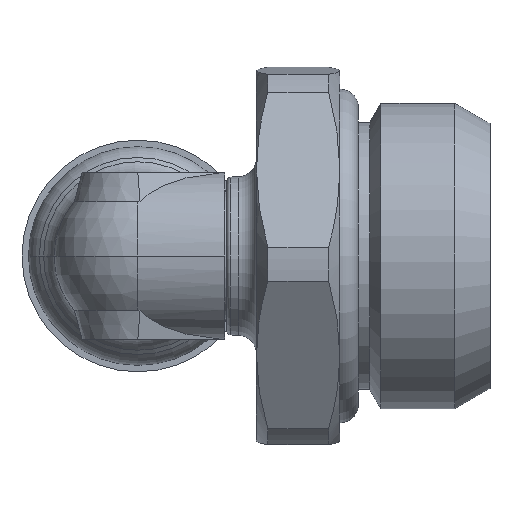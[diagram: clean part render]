
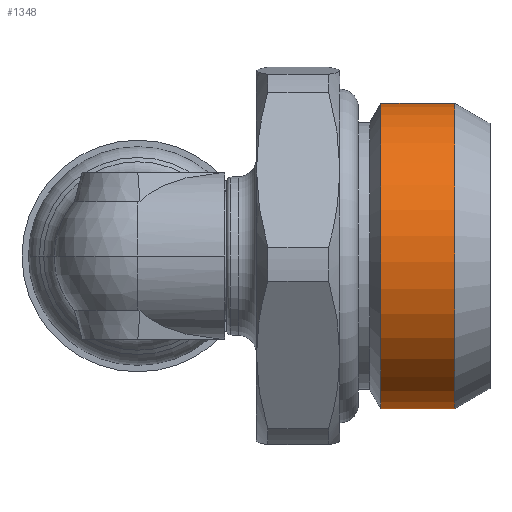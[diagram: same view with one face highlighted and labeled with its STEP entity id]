
A CAD part, left-side view. The second image highlights one B-rep face of the part: STEP entity #1348.
In plain terms, the highlighted cylindrical face has radius 8.25 mm (diameter 16.5 mm), a partial arc.
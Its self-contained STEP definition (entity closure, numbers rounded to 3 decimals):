
#994 = CARTESIAN_POINT ( 'NONE',  ( 0.334, -17.095, -8.243 ) ) ;
#1030 = CARTESIAN_POINT ( 'NONE',  ( 0.334, -13.106, -8.243 ) ) ;
#1061 = CARTESIAN_POINT ( 'NONE',  ( -0.334, -17.095, 8.243 ) ) ;
#1070 = CARTESIAN_POINT ( 'NONE',  ( -0.334, -13.106, 8.243 ) ) ;
#1348 = ADVANCED_FACE ( 'NONE', ( #8310 ), #8318, .T. ) ;
#3057 = AXIS2_PLACEMENT_3D ( 'NONE', #8975, #8976, #8977 ) ;
#3058 = AXIS2_PLACEMENT_3D ( 'NONE', #8978, #8979, #8980 ) ;
#3931 = EDGE_CURVE ( 'NONE', #5727, #5687, #8476, .T. ) ;
#3932 = EDGE_CURVE ( 'NONE', #5718, #5651, #8477, .T. ) ;
#3946 = EDGE_CURVE ( 'NONE', #5727, #5718, #8491, .T. ) ;
#3947 = EDGE_CURVE ( 'NONE', #5687, #5651, #8497, .T. ) ;
#5651 = VERTEX_POINT ( 'NONE', #994 ) ;
#5687 = VERTEX_POINT ( 'NONE', #1030 ) ;
#5718 = VERTEX_POINT ( 'NONE', #1061 ) ;
#5727 = VERTEX_POINT ( 'NONE', #1070 ) ;
#7952 = ORIENTED_EDGE ( 'NONE', *, *, #3946, .F. ) ;
#7953 = ORIENTED_EDGE ( 'NONE', *, *, #3931, .T. ) ;
#7954 = ORIENTED_EDGE ( 'NONE', *, *, #3947, .T. ) ;
#7955 = ORIENTED_EDGE ( 'NONE', *, *, #3932, .F. ) ;
#8310 = FACE_OUTER_BOUND ( 'NONE', #9557, .T. ) ;
#8318 = CYLINDRICAL_SURFACE ( 'NONE', #9691, 8.25 ) ;
#8476 = CIRCLE ( 'NONE', #3057, 8.25 ) ;
#8477 = CIRCLE ( 'NONE', #3058, 8.25 ) ;
#8491 = LINE ( 'NONE', #9014, #8498 ) ;
#8497 = LINE ( 'NONE', #9018, #8500 ) ;
#8498 = VECTOR ( 'NONE', #9009, 1000. ) ;
#8500 = VECTOR ( 'NONE', #9019, 1000. ) ;
#8975 = CARTESIAN_POINT ( 'NONE',  ( 0., -13.106, 0. ) ) ;
#8976 = DIRECTION ( 'NONE',  ( 0., -1., 0. ) ) ;
#8977 = DIRECTION ( 'NONE',  ( 0.041, 0., -0.999 ) ) ;
#8978 = CARTESIAN_POINT ( 'NONE',  ( 0., -17.095, 0. ) ) ;
#8979 = DIRECTION ( 'NONE',  ( 0., -1., 0. ) ) ;
#8980 = DIRECTION ( 'NONE',  ( 0.041, 0., -0.999 ) ) ;
#9009 = DIRECTION ( 'NONE',  ( 0., -1., 0. ) ) ;
#9014 = CARTESIAN_POINT ( 'NONE',  ( -0.334, -19., 8.243 ) ) ;
#9018 = CARTESIAN_POINT ( 'NONE',  ( 0.334, -19., -8.243 ) ) ;
#9019 = DIRECTION ( 'NONE',  ( 0., -1., 0. ) ) ;
#9557 = EDGE_LOOP ( 'NONE', ( #7952, #7953, #7954, #7955 ) ) ;
#9691 = AXIS2_PLACEMENT_3D ( 'NONE', #10441, #10440, #10431 ) ;
#10431 = DIRECTION ( 'NONE',  ( 0.041, 0., -0.999 ) ) ;
#10440 = DIRECTION ( 'NONE',  ( 0., -1., 0. ) ) ;
#10441 = CARTESIAN_POINT ( 'NONE',  ( 0., -19., 0. ) ) ;
